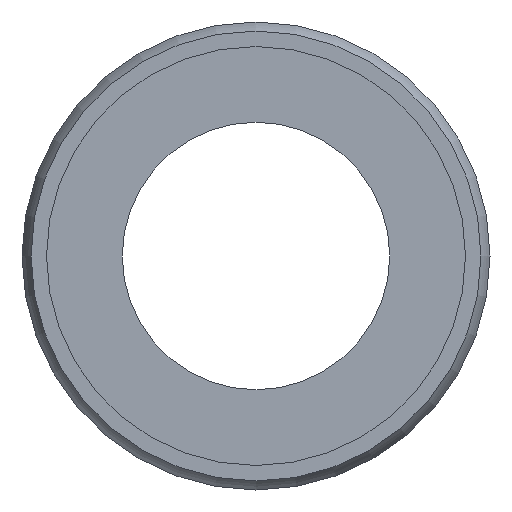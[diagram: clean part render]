
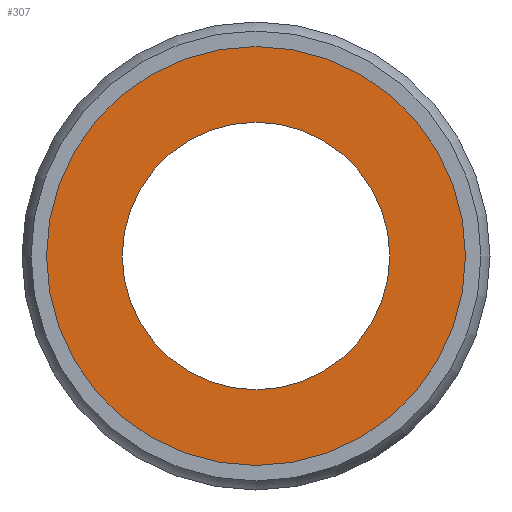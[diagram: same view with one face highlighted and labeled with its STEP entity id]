
A CAD part, left-side view. The second image highlights one B-rep face of the part: STEP entity #307.
In plain terms, the highlighted planar face has unit normal (-1, 0, 0).
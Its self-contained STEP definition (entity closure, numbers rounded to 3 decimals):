
#280=CARTESIAN_POINT('',(0.1,0.0,7.7));
#281=DIRECTION('',(-1.0,0.0,0.0));
#282=DIRECTION('',(0.0,0.0,1.0));
#283=AXIS2_PLACEMENT_3D('',#280,#281,#282);
#284=PLANE('',#283);
#285=CARTESIAN_POINT('',(0.1,0.0,9.4));
#286=VERTEX_POINT('',#285);
#287=CARTESIAN_POINT('',(0.1,0.0,0.));
#288=DIRECTION('',(1.0,0.0,0.0));
#289=DIRECTION('',(0.0,0.0,1.0));
#290=AXIS2_PLACEMENT_3D('',#287,#288,#289);
#291=CIRCLE('',#290,9.4);
#292=EDGE_CURVE('',#286,#286,#291,.T.);
#293=ORIENTED_EDGE('',*,*,#292,.F.);
#294=EDGE_LOOP('',(#293));
#295=FACE_OUTER_BOUND('',#294,.T.);
#296=CARTESIAN_POINT('',(0.1,0.0,6.));
#297=VERTEX_POINT('',#296);
#298=CARTESIAN_POINT('',(0.1,0.0,0.));
#299=DIRECTION('',(-1.0,0.0,0.0));
#300=DIRECTION('',(0.0,0.0,1.0));
#301=AXIS2_PLACEMENT_3D('',#298,#299,#300);
#302=CIRCLE('',#301,6.);
#303=EDGE_CURVE('',#297,#297,#302,.T.);
#304=ORIENTED_EDGE('',*,*,#303,.F.);
#305=EDGE_LOOP('',(#304));
#306=FACE_BOUND('',#305,.T.);
#307=ADVANCED_FACE('',(#295,#306),#284,.T.);
